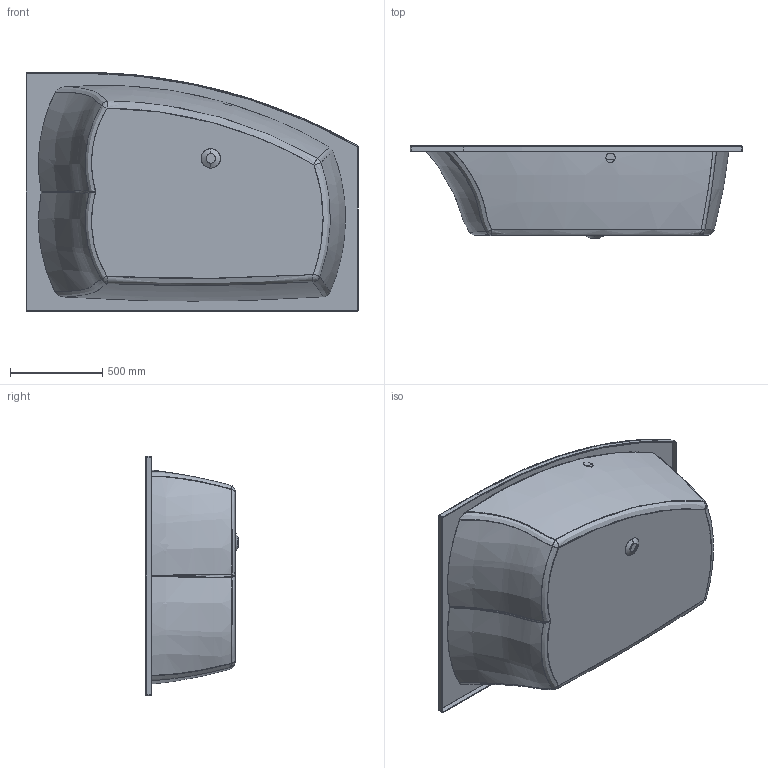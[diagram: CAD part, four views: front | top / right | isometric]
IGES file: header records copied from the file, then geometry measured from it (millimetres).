
Start section: SolidWorks IGES file using analytic representation for surfaces
Global section: file name: D:\Users\M.Szymanski\Desktop\Wanny\Largo\03. do przegrania\WTLP_LA 180x130.IGS; native system: SolidWorks 2011; preprocessor: SolidWorks 2011; author: M.Szymanski; date: 180608.143332; units: millimetre
Bounding box: 1800 x 500.21 x 1300 mm (x, y, z)
Surface area: 7871845.2 mm2 (no closed solid volume)
Topology: 0 solids, 0 shells, 109 faces, 1479 edges, 1475 vertices
Faces by surface type: bspline 79, revolution 30
